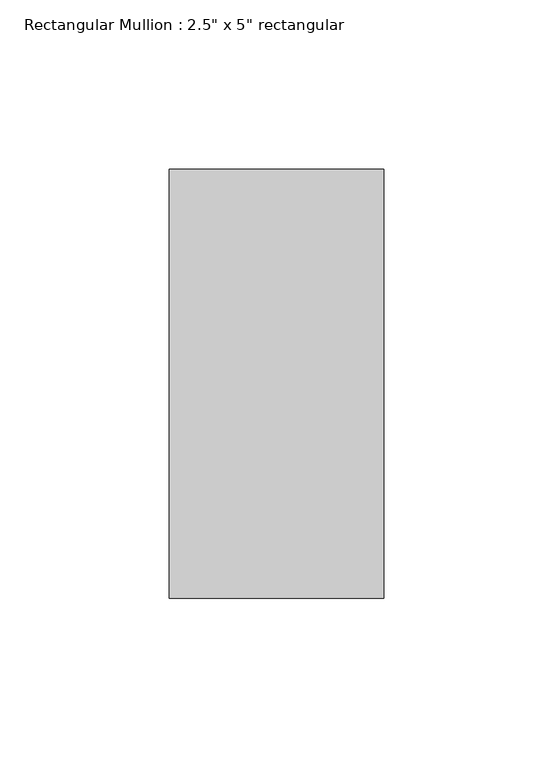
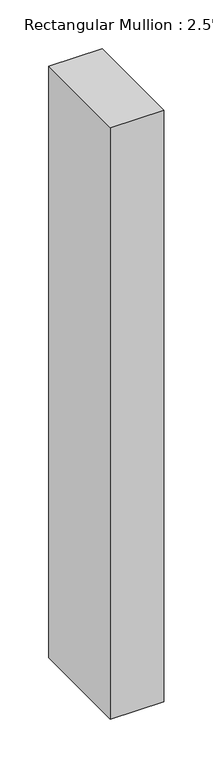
"""IFC4 building model written with IfcOpenShell, lengths in millimetres: member geometry."""

from ifc_helpers import new_model, si_unit, frame, origin, place, context, project, spatial, polyline, outline, extrude, source, transform, mapped, element, save


def member_7219d7ff(model_context):
    return source(origin(), model_context, "Body", "SweptSolid", [
        extrude(outline(polyline([(0.0, 63.5), (0.0, -63.5), (-63.5, -63.5), (-63.5, 63.5), (0.0, 63.5)])), frame((0.0, 0.0, -742.4913134), z_axis=(0.0, 0.0, 1.0), x_axis=(1.0, 0.0, 0.0)), (0.0, 0.0, 1.0), 742.4913134),
    ])


if __name__ == "__main__":
    model = new_model("IFC4")
    model_context = context("Model", 3, world=origin())
    ifc_project = project(units=[si_unit("LENGTHUNIT", "METRE", prefix="MILLI")], contexts=[model_context])
    site = spatial("IfcSite", under=ifc_project)
    building = spatial("IfcBuilding", under=site)
    placement = place(None, origin())
    member_shape = member_7219d7ff(model_context)
    element("IfcMember", 1, ObjectType="Rectangular Mullion : 2.5\" x 5\" rectangular", at=placement, inside=building, context=model_context, shape_type="MappedRepresentation", body=[
        mapped(member_shape, transform((0.0, 0.0, 0.0), x_axis=(1.0, 0.0, 0.0), y_axis=(0.0, 1.0, 0.0), z_axis=(0.0, 0.0, 1.0))),
    ])
    save(model, "model.ifc")
